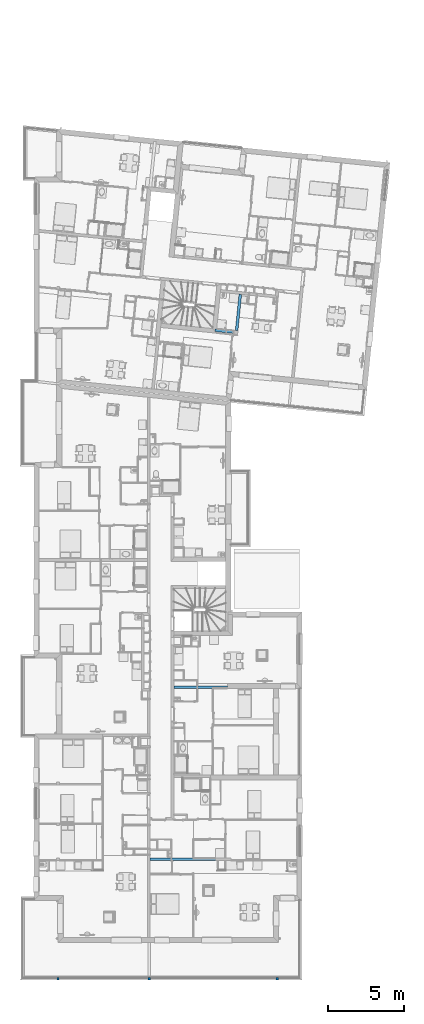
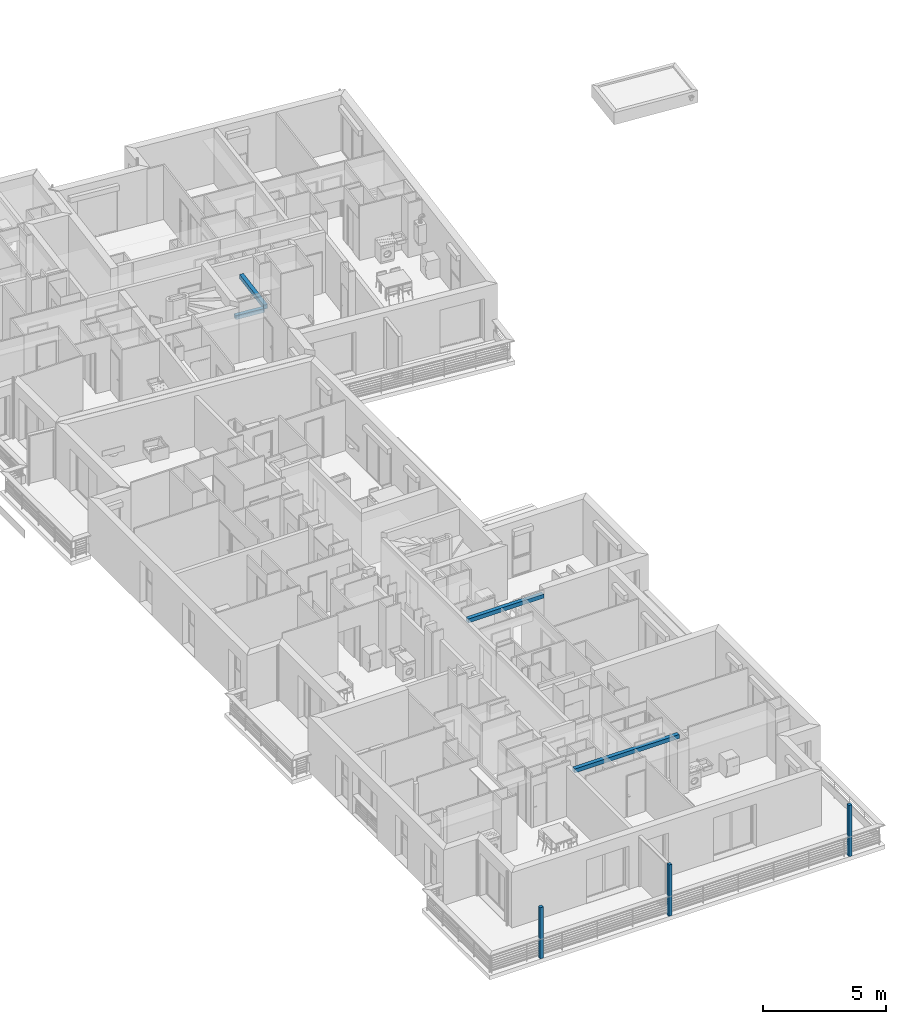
# One storey, part 1 of 164: 4 beams, 3 columns.
"""IFC2X3 building model written with IfcOpenShell, lengths in millimetres."""

from ifc_helpers import new_model, entity, si_unit, converted_unit, derived_unit, money_unit, direction, frame, frame_2d, origin_with_axes, origin_2d_with_axis, place, context, subcontext, project, spatial, rectangle, extrude, material, type_object, element, save


model = new_model("IFC2X3")

# Units and contexts
model_context = context("Model", 3, precision=0.01, world=origin_with_axes(), true_north=direction((0.0, 1.0)))
body_context = subcontext(model_context, "Body", "Model", "MODEL_VIEW")
ifc_project = project(units=[si_unit("LENGTHUNIT", "METRE", prefix="MILLI"), si_unit("AREAUNIT", "SQUARE_METRE"), si_unit("VOLUMEUNIT", "CUBIC_METRE"), converted_unit("PLANEANGLEUNIT", "DEGREE", entity("IfcPlaneAngleMeasure", 0.0174532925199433), si_unit("PLANEANGLEUNIT", "RADIAN"), dimensions=[0, 0, 0, 0, 0, 0, 0]), money_unit("USD"), converted_unit("TIMEUNIT", "Year", entity("IfcTimeMeasure", 31557600.0), si_unit("TIMEUNIT", "SECOND"), dimensions=[0, 0, 1, 0, 0, 0, 0]), si_unit("MASSUNIT", "GRAM", prefix="KILO"), si_unit("THERMODYNAMICTEMPERATUREUNIT", "DEGREE_CELSIUS"), si_unit("LUMINOUSINTENSITYUNIT", "LUMEN"), si_unit("ENERGYUNIT", "JOULE", prefix="MEGA"), derived_unit("THERMALCONDUCTANCEUNIT", [(si_unit("POWERUNIT", "WATT"), 1), (si_unit("LENGTHUNIT", "METRE"), -1), (si_unit("THERMODYNAMICTEMPERATUREUNIT", "KELVIN"), -1)]), derived_unit("SPECIFICHEATCAPACITYUNIT", [(si_unit("ENERGYUNIT", "JOULE"), 1), (si_unit("MASSUNIT", "GRAM", prefix="KILO"), -1), (si_unit("THERMODYNAMICTEMPERATUREUNIT", "KELVIN"), -1)]), derived_unit("MASSDENSITYUNIT", [(si_unit("MASSUNIT", "GRAM", prefix="KILO"), 1), (si_unit("VOLUMEUNIT", "CUBIC_METRE"), -1)])], contexts=[model_context])

# Site, building, storey
site_placement = place(None, origin_with_axes())
site = spatial("IfcSite", under=ifc_project, at=site_placement, Name="Site", CompositionType="ELEMENT")
building_placement = place(site_placement, origin_with_axes())
building = spatial("IfcBuilding", under=site, at=building_placement, Name="Bâtiment", CompositionType="ELEMENT")
storey_placement = place(building_placement, frame((0.0, 0.0, 5750.0), z_axis=(0.0, 0.0, 1.0), x_axis=(1.0, 0.0, 0.0)))
storey = spatial("IfcBuildingStorey", under=building, at=storey_placement, Name="Etage1", CompositionType="ELEMENT", Elevation=5750.0)

# Columns
ifc_material_1 = material(Name="Minimal space 288701002")
column_type = type_object("IfcColumnType", Name="Minimal space 288701002 150 x 150", PredefinedType="NOTDEFINED")
for number, where, z_axis, x_axis, name in (
    (1, (2218214.233338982, -660223.1031596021, 0.0), (0.0, 0.0, 1.0), (0.0, -1.0, 0.0), "Pilier-018"),
    (2, (2232731.658098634, -660223.1031596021, 0.0), (0.0, 0.0, 1.0), (0.0, -1.0, 0.0), "Pilier-018"),
    (3, (2224262.596298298, -660223.1031596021, 0.0), (0.0, 0.0, 1.0), (0.0, -1.0, 0.0), "Pilier-018"),
):
    element("IfcColumn", number, at=place(storey_placement, frame(where, z_axis=z_axis, x_axis=x_axis)), inside=storey, type_object=column_type, material=ifc_material_1, Name=name, context=body_context, shape_type="SweptSolid", body=[
        extrude(rectangle(XDim=150.0, YDim=150.0, at=origin_2d_with_axis()), origin_with_axes(), (0.0, 0.0, 1.0), 2550.000000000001),
    ])

# Beams
ifc_material_2 = material(Name="Parpaing 2676271321")
beam_type_1 = type_object("IfcBeamType", Name="Parpaing 2676271321 180 x 200", PredefinedType="NOTDEFINED")
beam_1_placement = place(storey_placement, frame((2224312.122682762, -652323.3050478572, 2500.0), z_axis=(0.0, 0.0, 1.0), x_axis=(0.0, -1.0, 0.0)))
element("IfcBeam", 4, at=beam_1_placement, inside=storey, type_object=beam_type_1, material=ifc_material_2, Name="Poutre-010", context=body_context, shape_type="SweptSolid", body=[
    extrude(rectangle(XDim=200.0, YDim=180.0, at=frame_2d((-100.0, 0.0), x_axis=(1.0, 0.0))), frame((0.0, 0.0, 0.0), z_axis=(0.0, 1.0, 0.0), x_axis=(0.0, 0.0, 1.0)), (0.0, 0.0, 1.0), 4924.757860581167),
])
beam_2_placement = place(storey_placement, frame((2225892.31835671, -640935.3255383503, 2500.0), z_axis=(0.0, 0.0, 1.0), x_axis=(0.0, -1.0, 0.0)))
element("IfcBeam", 5, at=beam_2_placement, inside=storey, type_object=beam_type_1, material=ifc_material_2, Name="Poutre-010", context=body_context, shape_type="SweptSolid", body=[
    extrude(rectangle(XDim=200.0, YDim=180.0, at=frame_2d((-100.0, 0.0), x_axis=(1.0, 0.0))), frame((0.0, 0.0, 0.0), z_axis=(0.0, 1.0, 0.0), x_axis=(0.0, 0.0, 1.0)), (0.0, 0.0, 1.0), 3542.494535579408),
])
ifc_material_3 = material(Name="Brique 1 268964100")
beam_type_2 = type_object("IfcBeamType", Name="Brique 1 268964100 180 x 200", PredefinedType="NOTDEFINED")
beam_3_placement = place(storey_placement, frame((2228610.301146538, -617315.562762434, 2300.000000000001), z_axis=(0.0, 0.0, 1.0), x_axis=(-0.1011032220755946, -0.9948759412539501, 0.0)))
element("IfcBeam", 6, at=beam_3_placement, inside=storey, type_object=beam_type_2, material=ifc_material_3, Name="Poutre-010", context=body_context, shape_type="SweptSolid", body=[
    extrude(rectangle(XDim=200.0, YDim=180.0, at=frame_2d((-100.0, 0.0), x_axis=(1.0, 0.0))), frame((0.0, 0.0, 0.0), z_axis=(0.0, 1.0, 0.0), x_axis=(0.0, 0.0, 1.0)), (0.0, 0.0, 1.0), 1264.730172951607),
])
beam_4_placement = place(storey_placement, frame((2230040.489356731, -617334.0619865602, 2300.000000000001), z_axis=(0.0, 0.0, 1.0), x_axis=(0.9948759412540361, -0.1011032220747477, 0.0)))
element("IfcBeam", 7, at=beam_4_placement, inside=storey, type_object=beam_type_2, material=ifc_material_3, Name="Poutre-010", context=body_context, shape_type="SweptSolid", body=[
    extrude(rectangle(XDim=200.0, YDim=180.0, at=frame_2d((-100.0, 0.0), x_axis=(1.0, 0.0))), frame((0.0, 0.0, 0.0), z_axis=(0.0, 1.0, 0.0), x_axis=(0.0, 0.0, 1.0)), (0.0, 0.0, 1.0), 2403.976836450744),
])

save(model, "model.ifc")
